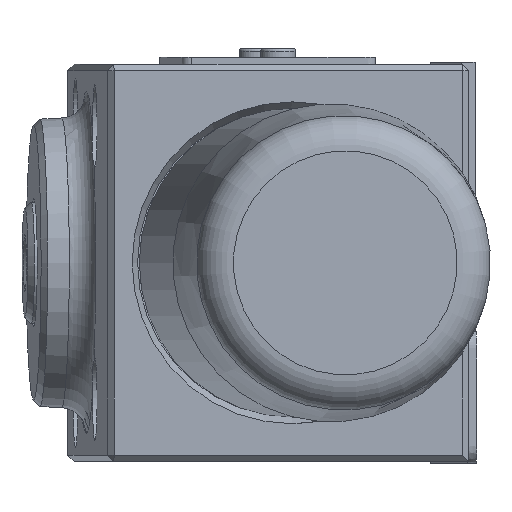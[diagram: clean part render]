
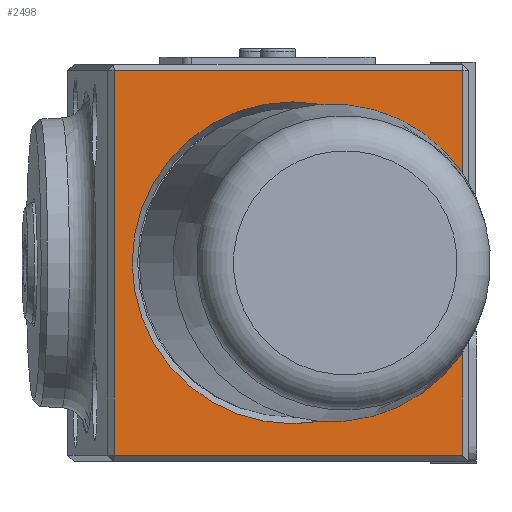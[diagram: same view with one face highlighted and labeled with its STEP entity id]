
A CAD part, left-side view. The second image highlights one B-rep face of the part: STEP entity #2498.
In plain terms, the highlighted planar face has unit normal (-0.999, -0.054, 0).
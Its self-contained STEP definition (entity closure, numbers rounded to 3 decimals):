
#699=CIRCLE('',#12180,18.25);
#1802=FACE_BOUND('',#4061,.T.);
#1803=FACE_BOUND('',#4062,.T.);
#2498=ADVANCED_FACE('',(#1802,#1803),#3146,.T.);
#3146=PLANE('',#12181);
#4061=EDGE_LOOP('',(#6143,#6144,#6145,#6146));
#4062=EDGE_LOOP('',(#6147));
#6143=ORIENTED_EDGE('',*,*,#9947,.T.);
#6144=ORIENTED_EDGE('',*,*,#9948,.T.);
#6145=ORIENTED_EDGE('',*,*,#9949,.T.);
#6146=ORIENTED_EDGE('',*,*,#9950,.T.);
#6147=ORIENTED_EDGE('',*,*,#9951,.F.);
#8741=VERTEX_POINT('',#37428);
#8742=VERTEX_POINT('',#37429);
#8743=VERTEX_POINT('',#37431);
#8744=VERTEX_POINT('',#37433);
#8745=VERTEX_POINT('',#37436);
#9947=EDGE_CURVE('',#8741,#8742,#11208,.T.);
#9948=EDGE_CURVE('',#8742,#8743,#11209,.T.);
#9949=EDGE_CURVE('',#8743,#8744,#11210,.T.);
#9950=EDGE_CURVE('',#8744,#8741,#11211,.T.);
#9951=EDGE_CURVE('',#8745,#8745,#699,.T.);
#11208=LINE('',#37427,#11612);
#11209=LINE('',#37430,#11613);
#11210=LINE('',#37432,#11614);
#11211=LINE('',#37434,#11615);
#11612=VECTOR('',#13919,1.);
#11613=VECTOR('',#13920,1.);
#11614=VECTOR('',#13921,1.);
#11615=VECTOR('',#13922,1.);
#12180=AXIS2_PLACEMENT_3D('',#37435,#13923,#13924);
#12181=AXIS2_PLACEMENT_3D('',#37437,#13925,#13926);
#13919=DIRECTION('',(0.054,-0.999,0.));
#13920=DIRECTION('',(0.,0.,1.));
#13921=DIRECTION('',(-0.054,0.999,0.));
#13922=DIRECTION('',(0.,0.,-1.));
#13923=DIRECTION('',(-0.999,-0.054,0.));
#13924=DIRECTION('',(0.,0.,1.));
#13925=DIRECTION('',(-0.999,-0.054,0.));
#13926=DIRECTION('',(0.054,-0.999,0.));
#37427=CARTESIAN_POINT('',(123.592,-25.865,-21.801));
#37428=CARTESIAN_POINT('',(121.407,14.376,-21.801));
#37429=CARTESIAN_POINT('',(123.554,-25.166,-21.801));
#37430=CARTESIAN_POINT('',(123.554,-25.166,22.499));
#37431=CARTESIAN_POINT('',(123.554,-25.166,21.799));
#37432=CARTESIAN_POINT('',(121.37,15.075,21.799));
#37433=CARTESIAN_POINT('',(121.407,14.376,21.799));
#37434=CARTESIAN_POINT('',(121.407,14.376,22.499));
#37435=CARTESIAN_POINT('',(122.508,-5.894,-0.001));
#37436=CARTESIAN_POINT('',(122.508,-5.894,18.249));
#37437=CARTESIAN_POINT('',(123.592,-25.865,22.499));
